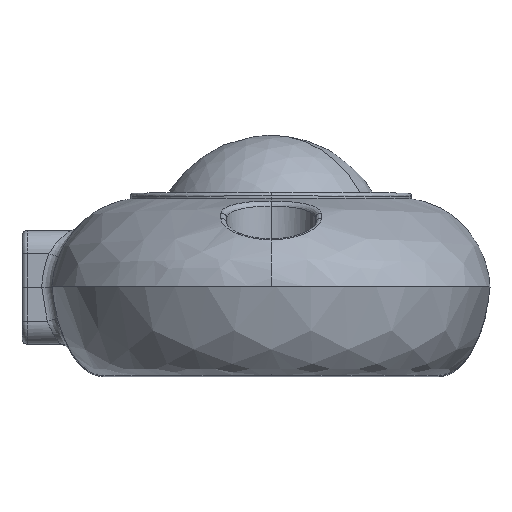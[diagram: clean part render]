
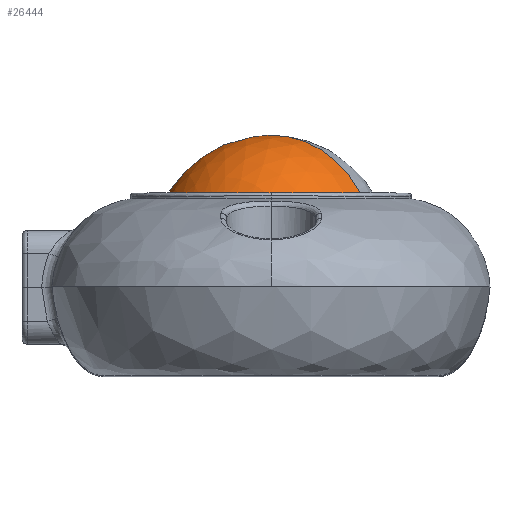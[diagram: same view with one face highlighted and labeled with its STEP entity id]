
A CAD part, top view. The second image highlights one B-rep face of the part: STEP entity #26444.
In plain terms, the highlighted spherical face has radius 11.5 mm.
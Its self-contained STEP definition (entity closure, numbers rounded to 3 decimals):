
#79 = ORIENTED_EDGE ( 'NONE', *, *, #7320, .F. ) ;
#1971 = CARTESIAN_POINT ( 'NONE',  ( 0., 0., 0. ) ) ;
#3830 = EDGE_CURVE ( 'NONE', #26150, #29588, #5442, .T. ) ;
#4631 = DIRECTION ( 'NONE',  ( 1., 0., 0. ) ) ;
#5442 = CIRCLE ( 'NONE', #7472, 11.48 ) ;
#7320 = EDGE_CURVE ( 'NONE', #7624, #18500, #17867, .T. ) ;
#7416 = AXIS2_PLACEMENT_3D ( 'NONE', #30190, #14553, #32824 ) ;
#7472 = AXIS2_PLACEMENT_3D ( 'NONE', #30663, #15031, #33282 ) ;
#7624 = VERTEX_POINT ( 'NONE', #28483 ) ;
#9683 = DIRECTION ( 'NONE',  ( 0., 0., -1. ) ) ;
#9912 = DIRECTION ( 'NONE',  ( 1., 0., 0. ) ) ;
#9965 = AXIS2_PLACEMENT_3D ( 'NONE', #27585, #11969, #30219 ) ;
#9983 = EDGE_CURVE ( 'NONE', #29588, #18500, #18186, .T. ) ;
#10801 = ORIENTED_EDGE ( 'NONE', *, *, #9983, .T. ) ;
#11969 = DIRECTION ( 'NONE',  ( 0., 0., -1. ) ) ;
#11991 = ORIENTED_EDGE ( 'NONE', *, *, #12390, .T. ) ;
#12390 = EDGE_CURVE ( 'NONE', #7624, #26150, #20946, .T. ) ;
#14553 = DIRECTION ( 'NONE',  ( 0., 1., 0. ) ) ;
#15031 = DIRECTION ( 'NONE',  ( 0., 1., 0. ) ) ;
#17867 = CIRCLE ( 'NONE', #9965, 11.5 ) ;
#18186 = CIRCLE ( 'NONE', #27680, 11.5 ) ;
#18500 = VERTEX_POINT ( 'NONE', #22004 ) ;
#20270 = DIRECTION ( 'NONE',  ( 0., 0., 1. ) ) ;
#20946 = CIRCLE ( 'NONE', #7416, 11.48 ) ;
#21607 = EDGE_LOOP ( 'NONE', ( #79, #11991, #33018, #10801 ) ) ;
#22004 = CARTESIAN_POINT ( 'NONE',  ( 0., 11.5, 0. ) ) ;
#22887 = CARTESIAN_POINT ( 'NONE',  ( 0., 0., 0. ) ) ;
#24696 = SPHERICAL_SURFACE ( 'NONE', #33435, 11.5 ) ;
#26150 = VERTEX_POINT ( 'NONE', #27725 ) ;
#26444 = ADVANCED_FACE ( 'NONE', ( #30850 ), #24696, .T. ) ;
#27437 = CARTESIAN_POINT ( 'NONE',  ( 11.48, 0.682, 0. ) ) ;
#27585 = CARTESIAN_POINT ( 'NONE',  ( 0., 0., 0. ) ) ;
#27680 = AXIS2_PLACEMENT_3D ( 'NONE', #1971, #20270, #4631 ) ;
#27725 = CARTESIAN_POINT ( 'NONE',  ( 0., 0.682, 11.48 ) ) ;
#28483 = CARTESIAN_POINT ( 'NONE',  ( -11.48, 0.682, 0. ) ) ;
#29588 = VERTEX_POINT ( 'NONE', #27437 ) ;
#30190 = CARTESIAN_POINT ( 'NONE',  ( 0., 0.682, 0. ) ) ;
#30219 = DIRECTION ( 'NONE',  ( -1., 0., 0. ) ) ;
#30663 = CARTESIAN_POINT ( 'NONE',  ( 0., 0.682, 0. ) ) ;
#30850 = FACE_OUTER_BOUND ( 'NONE', #21607, .T. ) ;
#32824 = DIRECTION ( 'NONE',  ( 0., 0., -1. ) ) ;
#33018 = ORIENTED_EDGE ( 'NONE', *, *, #3830, .T. ) ;
#33282 = DIRECTION ( 'NONE',  ( 0., 0., -1. ) ) ;
#33435 = AXIS2_PLACEMENT_3D ( 'NONE', #22887, #9683, #9912 ) ;
